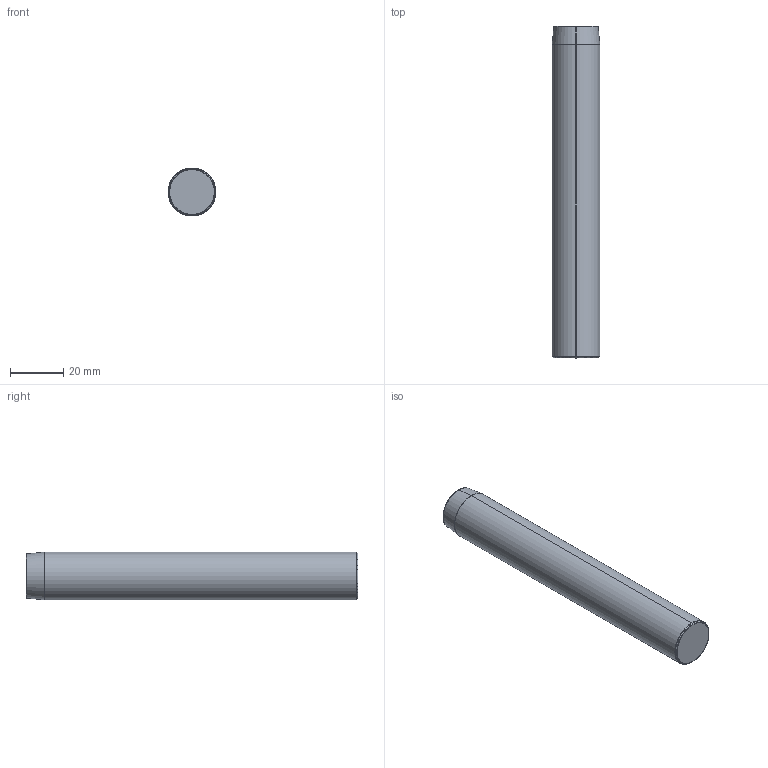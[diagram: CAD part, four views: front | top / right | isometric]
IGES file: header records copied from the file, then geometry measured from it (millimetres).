
Start section: SolidWorks IGES file using analytic representation for surfaces
Global section: file name: C:\Documents and Settings\kalite-mail\Desktop\IGS\D09\D09 18X125.IGS; native system: SolidWorks 2008; preprocessor: SolidWorks 2008; author: kalite-mail; date: 080707.122758; units: millimetre
Bounding box: 18 x 125 x 18 mm (x, y, z)
Surface area: 7499.3 mm2 (no closed solid volume)
Topology: 0 solids, 0 shells, 20 faces, 136 edges, 136 vertices
Faces by surface type: bspline 12, revolution 8
